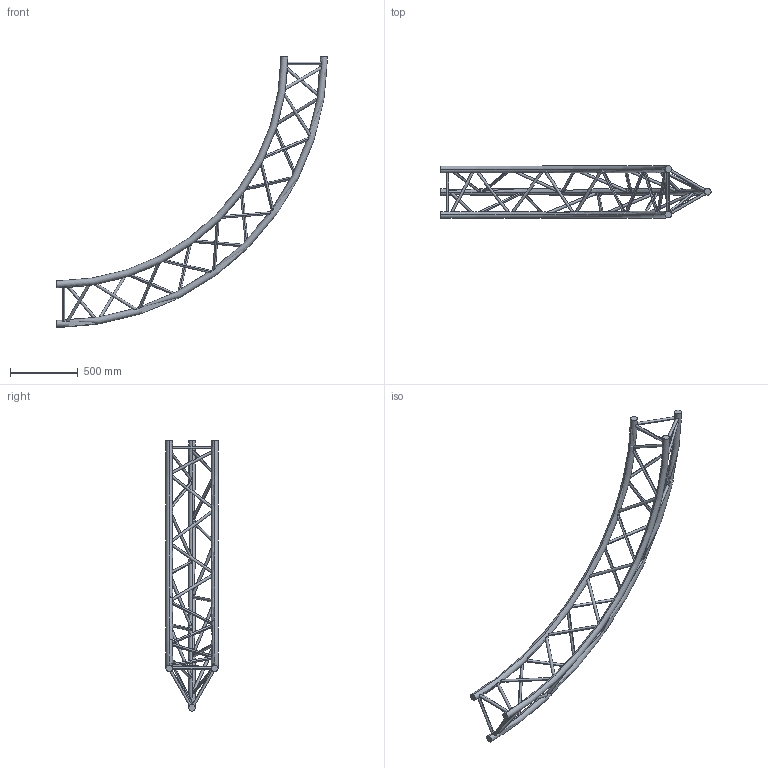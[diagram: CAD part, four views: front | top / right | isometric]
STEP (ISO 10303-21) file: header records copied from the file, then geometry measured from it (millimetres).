
FILE_DESCRIPTION (( 'STEP AP203' ), '1' );
FILE_NAME ('SXC39400PE.STEP', '2009-10-21T11:59:12', ( 'CEDIA' ), ( 'CEDIA INDUSTRIE' ), 'SwSTEP 2.0', 'SolidWorks 2009', '' );
FILE_SCHEMA (( 'CONFIG_CONTROL_DESIGN' ));
Length unit declared in the file: millimetre
Products named in the file (1): SXC39400PE
Bounding box: 2000 x 387 x 2000 mm (x, y, z)
Volume: 20463684.9 mm3; surface area: 2102281.1 mm2
Topology: 1 solids, 1 shells, 84 faces, 234 edges, 156 vertices
Faces by surface type: cylinder 72, torus 6, plane 6
Entity records: 9632 total; most frequent: CARTESIAN_POINT 7526, ORIENTED_EDGE 468, DIRECTION 278, EDGE_CURVE 234, VERTEX_POINT 156, EDGE_LOOP 156, B_SPLINE_CURVE_WITH_KNOTS 144, AXIS2_PLACEMENT_3D 103
